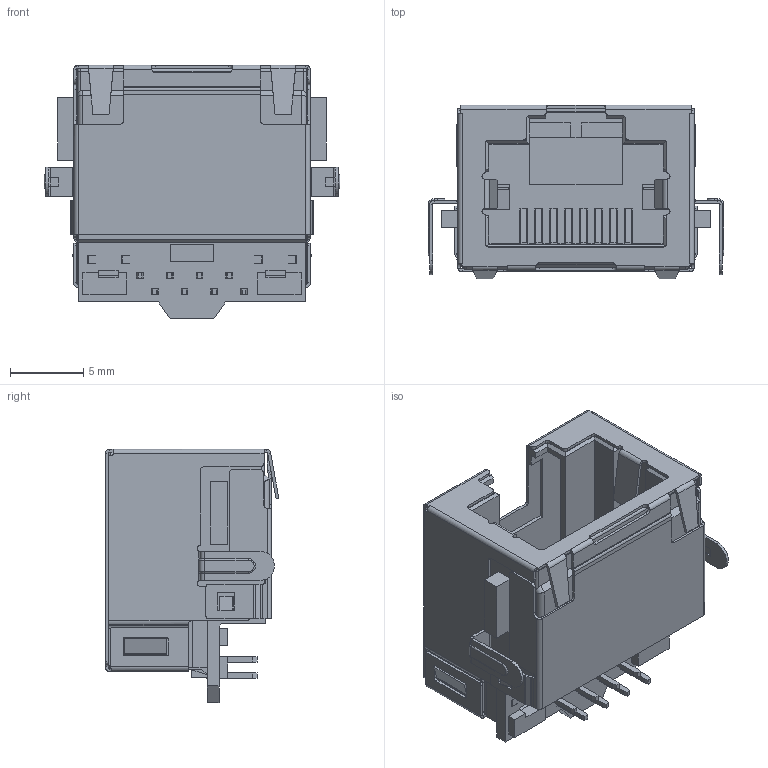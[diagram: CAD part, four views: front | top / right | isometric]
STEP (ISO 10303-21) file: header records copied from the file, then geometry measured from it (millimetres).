
FILE_DESCRIPTION((''),'2;1');
FILE_NAME('KRJ-CB3_0WDNL_ASM','2023-03-24T10:39:58',('Administrator'),(''),'CREO PARAMETRIC BY PTC INC, 2019010','CREO PARAMETRIC BY PTC INC, 2019010','');
FILE_SCHEMA(('CONFIG_CONTROL_DESIGN'));
Length unit declared in the file: millimetre
Products named in the file (6): MSBR-5; MSBR-4; MSBR-3; MSBR-2; MSBR-1; KRJ-CB3_0WDNL_ASM
Assembly tree (5 placements, depth 2):
  KRJ-CB3_0WDNL_ASM
    MSBR-5
    MSBR-4
    MSBR-3
    MSBR-2
    MSBR-1
Bounding box: 20.24 x 11.9 x 17.35 mm (x, y, z)
Volume: 906.4 mm3; surface area: 3656.2 mm2
Topology: 5 solids, 5 shells, 1466 faces, 4152 edges, 2619 vertices
Faces by surface type: plane 1172, cylinder 274, bspline 8, torus 8, sphere 4
Entity records: 47359 total; most frequent: CARTESIAN_POINT 8883, ORIENTED_EDGE 8296, DIRECTION 7591, EDGE_CURVE 4148, VECTOR 3511, LINE 3511, VERTEX_POINT 2619, AXIS2_PLACEMENT_3D 2040
